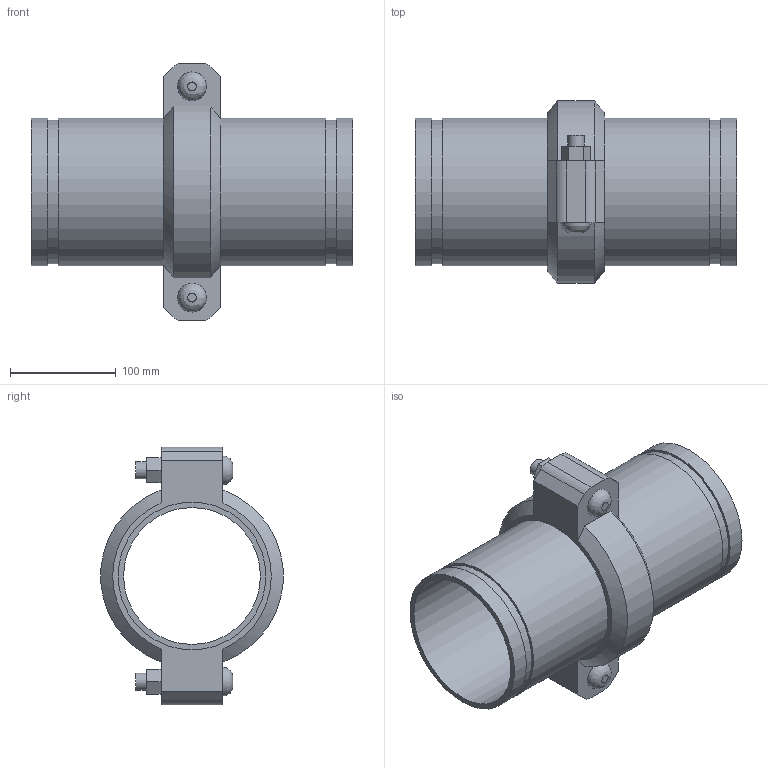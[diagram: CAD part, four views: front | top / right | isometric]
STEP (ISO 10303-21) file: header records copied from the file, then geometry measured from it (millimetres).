
FILE_DESCRIPTION(/* description */ ('VIC EXPANSION JOINT 1 COUPLING COMPRESSED STYLE 155 (OGS)','CAx-IF Rec.Pracs.---Representation and Presentation of Product Manufacturing Information (PMI)---4.0---2014-10-13'),/* implementation_level */ '2;1');
FILE_NAME(/* name */ 'C:\Users\kkamble\AppData\Roaming\Autodesk\ApplicationPlugins\Victaulic.Temp\A74\Victaulic_IPS_Expansion Joint_Compressed_1 Coupling_Style 155 (OGS)_05.0 (139.7) (125).stp',/* time_stamp */ '2021-06-27T00:14:40+02:00',/* author */ ('kkamble'),/* organization */ ('Victaulic'),/* preprocessor_version */ 'ST-DEVELOPER v17.2',/* originating_system */ 'Autodesk Inventor 2019',/* authorisation */ '');
FILE_SCHEMA (('AP242_MANAGED_MODEL_BASED_3D_ENGINEERING_MIM_LF { 1 0 10303 442 1 1 4 }'));
Length unit declared in the file: inch
Products named in the file (3): 155-05.0 (139.7); Nipple-05.0 (139.7); 075-05.0 (139.7)
Assembly tree (3 placements, depth 2):
  155-05.0 (139.7)
    Nipple-05.0 (139.7)  x2
    075-05.0 (139.7)
Bounding box: 304.04 x 172.14 x 243.59 mm (x, y, z)
Volume: 1257865 mm3; surface area: 370255 mm2
Topology: 3 solids, 5 shells, 81 faces, 193 edges, 138 vertices
Faces by surface type: plane 48, cylinder 27, cone 4, bspline 2
Full cylindrical faces by diameter (mm): 15.875 x4, 17.424 x2, 129.388 x2, 133.35 x1, 135.484 x4, 139.7 x8
Entity records: 2310 total; most frequent: CARTESIAN_POINT 420, DIRECTION 369, ORIENTED_EDGE 326, EDGE_CURVE 163, AXIS2_PLACEMENT_3D 141, VERTEX_POINT 114, EDGE_LOOP 89, LINE 87
